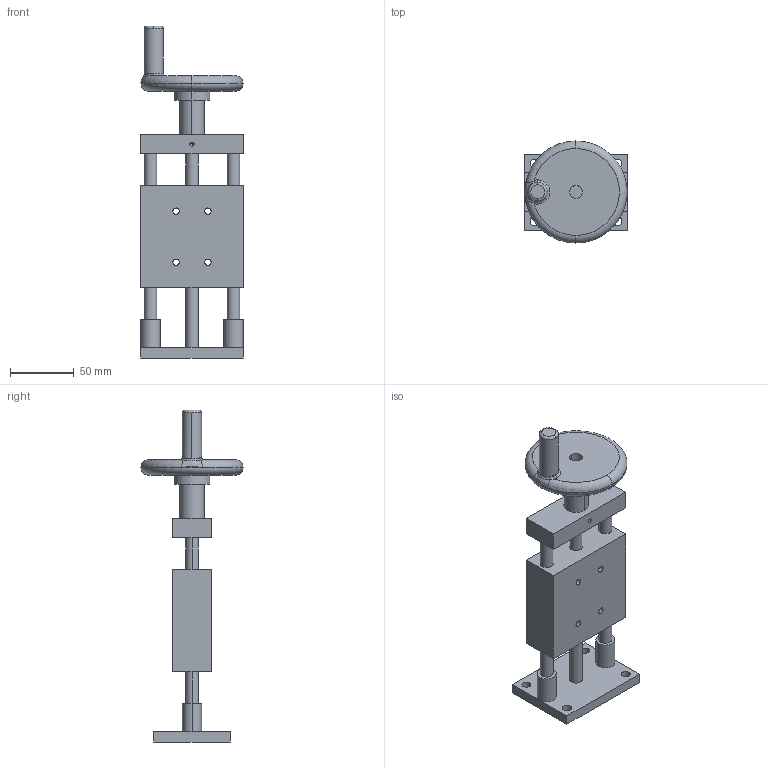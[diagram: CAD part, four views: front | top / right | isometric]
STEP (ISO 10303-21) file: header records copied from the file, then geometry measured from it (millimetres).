
FILE_DESCRIPTION (( 'STEP AP203' ), '1' );
FILE_NAME ('PT-SD503.STEP', '2022-04-16T03:22:23', ( '' ), ( '' ), 'SwSTEP 2.0', 'SolidWorks 2017', '' );
FILE_SCHEMA (( 'CONFIG_CONTROL_DESIGN' ));
Length unit declared in the file: millimetre
Products named in the file (3): 忒謫2; 503; PT-SD503
Assembly tree (2 placements, depth 2):
  PT-SD503
    503
    忒謫2
Bounding box: 80 x 80 x 260 mm (x, y, z)
Volume: 355846.5 mm3; surface area: 68137.4 mm2
Topology: 2 solids, 2 shells, 84 faces, 208 edges, 133 vertices
Faces by surface type: cylinder 43, plane 25, torus 10, bspline 4, cone 2
Entity records: 3157 total; most frequent: CARTESIAN_POINT 738, DIRECTION 484, ORIENTED_EDGE 412, EDGE_CURVE 206, AXIS2_PLACEMENT_3D 201, VERTEX_POINT 133, EDGE_LOOP 117, CIRCLE 116
